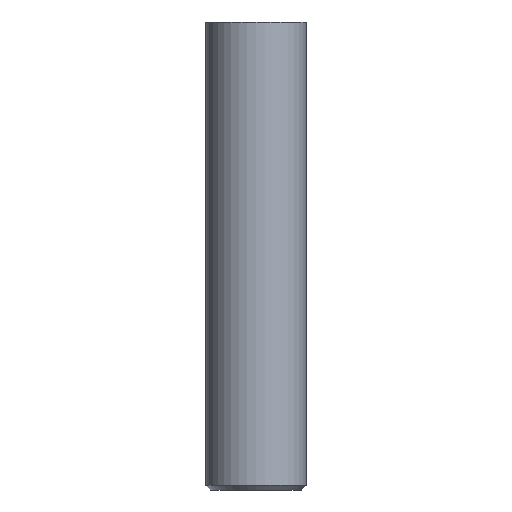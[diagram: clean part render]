
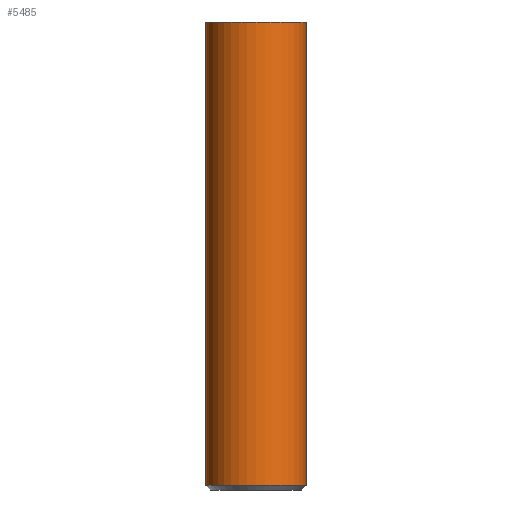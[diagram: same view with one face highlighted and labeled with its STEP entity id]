
A CAD part, front view. The second image highlights one B-rep face of the part: STEP entity #5485.
In plain terms, the highlighted cylindrical face has radius 1.5 mm (diameter 3 mm), a full revolution.
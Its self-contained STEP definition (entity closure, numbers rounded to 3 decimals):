
#16=CYLINDRICAL_SURFACE('',#5580,1.5);
#23=CIRCLE('',#5563,1.5);
#30=CIRCLE('',#5579,1.5);
#1024=FACE_OUTER_BOUND('',#1343,.T.);
#1343=EDGE_LOOP('',(#5069,#5070,#5071,#5072));
#1701=LINE('',#11625,#2065);
#2065=VECTOR('',#6079,1.5);
#2615=VERTEX_POINT('',#11594);
#2623=VERTEX_POINT('',#11621);
#3433=EDGE_CURVE('',#2615,#2615,#23,.T.);
#3443=EDGE_CURVE('',#2623,#2623,#30,.T.);
#3445=EDGE_CURVE('',#2615,#2623,#1701,.T.);
#5069=ORIENTED_EDGE('',*,*,#3433,.F.);
#5070=ORIENTED_EDGE('',*,*,#3445,.T.);
#5071=ORIENTED_EDGE('',*,*,#3443,.F.);
#5072=ORIENTED_EDGE('',*,*,#3445,.F.);
#5485=ADVANCED_FACE('',(#1024),#16,.T.);
#5563=AXIS2_PLACEMENT_3D('',#11595,#6039,#6040);
#5579=AXIS2_PLACEMENT_3D('',#11622,#6074,#6075);
#5580=AXIS2_PLACEMENT_3D('',#11624,#6077,#6078);
#6039=DIRECTION('center_axis',(0.,0.,1.));
#6040=DIRECTION('ref_axis',(1.,0.,0.));
#6074=DIRECTION('center_axis',(0.,0.,-1.));
#6075=DIRECTION('ref_axis',(1.,0.,0.));
#6077=DIRECTION('center_axis',(0.,0.,1.));
#6078=DIRECTION('ref_axis',(1.,0.,0.));
#6079=DIRECTION('',(0.,0.,-1.));
#11594=CARTESIAN_POINT('',(-1.5,0.,14.));
#11595=CARTESIAN_POINT('Origin',(0.,0.,14.));
#11621=CARTESIAN_POINT('',(-1.5,0.,0.14));
#11622=CARTESIAN_POINT('Origin',(0.,0.,0.14));
#11624=CARTESIAN_POINT('Origin',(0.,0.,0.));
#11625=CARTESIAN_POINT('',(-1.5,0.,0.));
